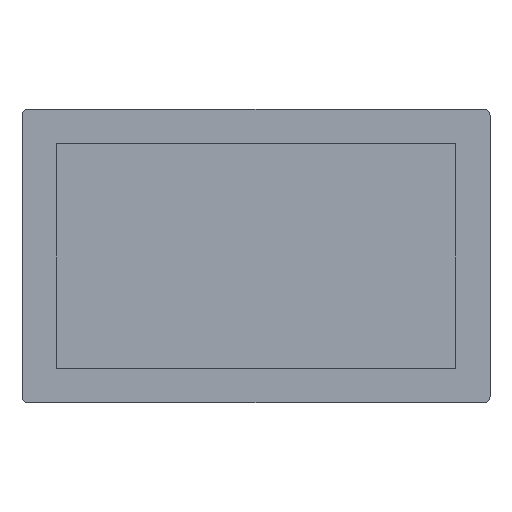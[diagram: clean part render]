
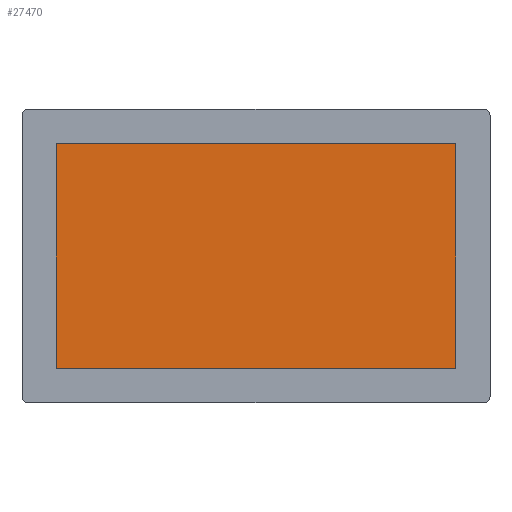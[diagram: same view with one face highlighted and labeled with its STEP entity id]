
A CAD part, top view. The second image highlights one B-rep face of the part: STEP entity #27470.
In plain terms, the highlighted planar face has unit normal (0, 0, 1).
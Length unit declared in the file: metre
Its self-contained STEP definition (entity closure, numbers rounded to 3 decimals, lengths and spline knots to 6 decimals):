
#27470=ADVANCED_FACE('0:5452',(#75520),#75521,.T.);
#27850=EDGE_CURVE('0:5925',#76102,#76105,#76106,.T.);
#28336=EDGE_CURVE('0:5905',#76747,#76750,#76751,.T.);
#28390=EDGE_CURVE('0:5935',#76750,#76102,#76809,.T.);
#28408=EDGE_CURVE('0:5915',#76105,#76747,#76827,.T.);
#75520=FACE_OUTER_BOUND('',#139703,.T.);
#75521=PLANE('',#139704);
#76102=VERTEX_POINT('',#140434);
#76105=VERTEX_POINT('',#140439);
#76106=LINE('',#140440,#140441);
#76747=VERTEX_POINT('',#141503);
#76750=VERTEX_POINT('',#141508);
#76751=LINE('',#141509,#141510);
#76809=LINE('',#141617,#141618);
#76827=LINE('',#141652,#141653);
#139703=EDGE_LOOP('',(#238665,#238666,#238667,#238668));
#139704=AXIS2_PLACEMENT_3D('',#238669,#238670,#238671);
#140434=CARTESIAN_POINT('',(0.24176,0.18948,0.00237));
#140439=CARTESIAN_POINT('',(0.24176,0.06418,0.00237));
#140440=CARTESIAN_POINT('',(0.24176,0.12683,0.00237));
#140441=VECTOR('',#239779,1.0);
#141503=CARTESIAN_POINT('',(0.01906,0.06418,0.00237));
#141508=CARTESIAN_POINT('',(0.01906,0.18948,0.00237));
#141509=CARTESIAN_POINT('',(0.01906,0.12683,0.00237));
#141510=VECTOR('',#240146,1.0);
#141617=CARTESIAN_POINT('',(0.13041,0.18948,0.00237));
#141618=VECTOR('',#240181,1.0);
#141652=CARTESIAN_POINT('',(0.13041,0.06418,0.00237));
#141653=VECTOR('',#240192,1.0);
#238665=ORIENTED_EDGE('',*,*,#28336,.F.);
#238666=ORIENTED_EDGE('',*,*,#28408,.F.);
#238667=ORIENTED_EDGE('',*,*,#27850,.F.);
#238668=ORIENTED_EDGE('',*,*,#28390,.F.);
#238669=CARTESIAN_POINT('',(0.13041,0.12683,0.00237));
#238670=DIRECTION('',(0.0,0.0,1.0));
#238671=DIRECTION('',(1.0,0.0,0.0));
#239779=DIRECTION('',(0.0,-1.0,0.0));
#240146=DIRECTION('',(0.0,1.0,0.0));
#240181=DIRECTION('',(1.0,0.0,-0.0));
#240192=DIRECTION('',(-1.0,0.,0.0));
